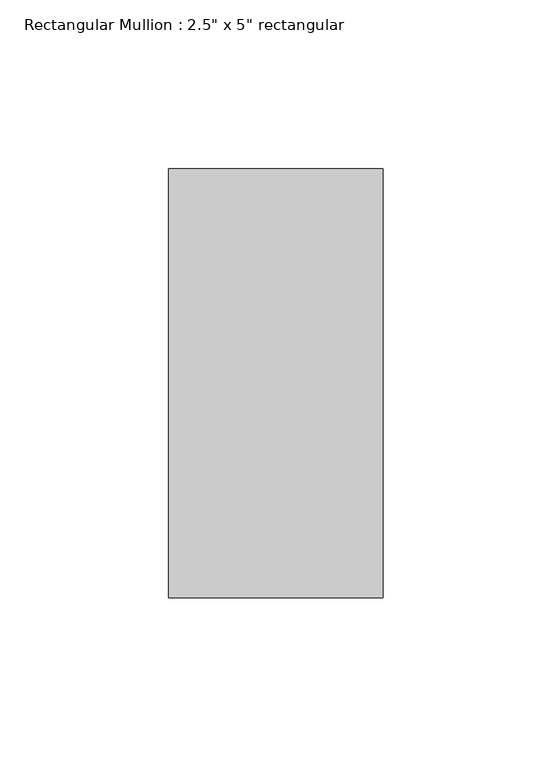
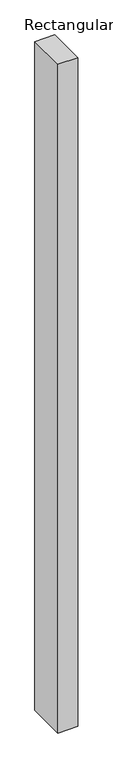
"""IFC4 building model written with IfcOpenShell, lengths in millimetres: member geometry."""

from ifc_helpers import new_model, si_unit, frame, origin, place, context, project, spatial, polyline, outline, extrude, source, transform, mapped, element, save


def member_7d8530c8(model_context):
    return source(origin(), model_context, "Body", "SweptSolid", [
        extrude(outline(polyline([(31.75, 63.5), (31.75, -63.5), (-31.75, -63.5), (-31.75, 63.5), (31.75, 63.5)])), frame((0.0, 0.0, -2254.25), z_axis=(0.0, 0.0, 1.0), x_axis=(1.0, 0.0, 0.0)), (0.0, 0.0, 1.0), 2254.25),
    ])


if __name__ == "__main__":
    model = new_model("IFC4")
    model_context = context("Model", 3, world=origin())
    ifc_project = project(units=[si_unit("LENGTHUNIT", "METRE", prefix="MILLI")], contexts=[model_context])
    site = spatial("IfcSite", under=ifc_project)
    building = spatial("IfcBuilding", under=site)
    placement = place(None, origin())
    member_shape = member_7d8530c8(model_context)
    element("IfcMember", 1, ObjectType="Rectangular Mullion : 2.5\" x 5\" rectangular", at=placement, inside=building, context=model_context, shape_type="MappedRepresentation", body=[
        mapped(member_shape, transform((0.0, 0.0, 0.0), x_axis=(1.0, 0.0, 0.0), y_axis=(0.0, 1.0, 0.0), z_axis=(0.0, 0.0, 1.0))),
    ])
    save(model, "model.ifc")
